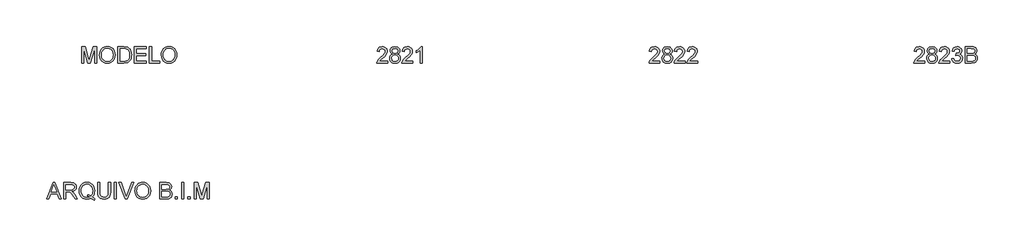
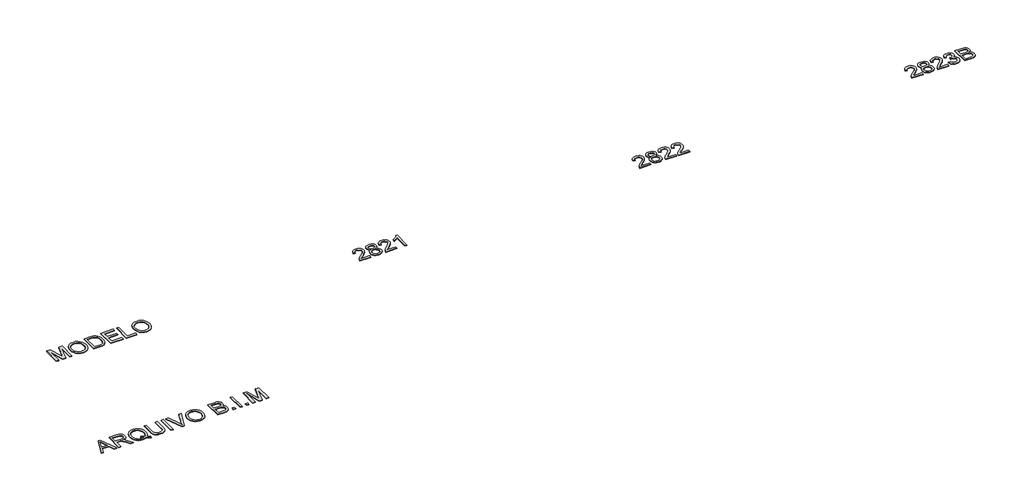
# One storey, part 3 of 4: 5 proxies.
"""IFC4 building model written with IfcOpenShell, lengths in millimetres."""

from ifc_helpers import new_model, si_unit, origin, origin_with_axes, place, context, project, spatial, polyline, outline, extrude, element, save

model = new_model("IFC4")

# Units and contexts
model_context = context("Model", 3, world=origin())
ifc_project = project(units=[si_unit("LENGTHUNIT", "METRE", prefix="MILLI")], contexts=[model_context])

# Site, building, storey
site = spatial("IfcSite", under=ifc_project)
building = spatial("IfcBuilding", under=site)
storey = spatial("IfcBuildingStorey", under=building, Name="Marelli - Linha UNIQUE - Planta Baixa", Elevation=0.0)

# Proxies
placement = place(None, origin())
element("IfcBuildingElementProxy", 1, Name="300mm Arial", ObjectType="300mm Arial", at=placement, inside=storey, context=model_context, shape_type="SweptSolid", body=[
    extrude(outline(polyline([(-8109.419598, 3219.4336799), (-7989.1221856, 3520.8026104), (-7957.0428756, 3520.8026104), (-7836.7454632, 3219.4336799), (-7876.550295, 3219.4336799), (-7911.0576262, 3313.6114707), (-8035.1810114, 3313.6114707), (-8069.6147661, 3219.4336799), (-8109.419598, 3219.4336799)]), holes=[polyline([(-8021.3486483, 3351.282587), (-7924.8164128, 3351.282587), (-7951.9661041, 3425.3740208), (-7973.0825306, 3483.1314941), (-7991.8445123, 3431.8487439), (-8021.3486483, 3351.282587)])]), origin_with_axes(), (0.0, 0.0, 1.0), 10.0),
    extrude(outline(polyline([(-7796.4991729, 3219.4336799), (-7796.4991729, 3520.8026104), (-7666.6368286, 3520.8026104), (-7631.7340243, 3518.7700624), (-7606.3409696, 3512.6724183), (-7587.7813229, 3501.4152292), (-7573.3787428, 3483.9040463), (-7564.1357077, 3462.1898115), (-7561.054696, 3438.3234671), (-7566.1590587, 3408.6353901), (-7581.4721467, 3384.0240846), (-7593.0719259, 3373.9947017), (-7607.4538126, 3365.9794727), (-7644.5639089, 3355.9914765), (-7623.1531768, 3339.8782452), (-7592.6189712, 3301.1034829), (-7542.3662906, 3219.4336799), (-7586.144248, 3219.4336799), (-7625.3604687, 3281.9000427), (-7653.6873824, 3323.249979), (-7673.5897983, 3342.7845129), (-7691.5056515, 3349.9582118), (-7713.357842, 3351.282587), (-7758.8280566, 3351.282587), (-7758.8280566, 3219.4336799), (-7796.4991729, 3219.4336799)]), holes=[polyline([(-7758.8280566, 3388.9537033), (-7674.5095033, 3388.9537033), (-7650.293671, 3390.2872755), (-7631.5040981, 3394.2879922), (-7617.3590353, 3401.2225678), (-7607.0767336, 3411.3577168), (-7600.8135426, 3423.6173843), (-7598.7258123, 3436.9255155), (-7602.7081349, 3455.3012211), (-7614.6551027, 3470.1084714), (-7635.2105092, 3479.8757384), (-7665.0181478, 3483.1314941), (-7758.8280566, 3483.1314941), (-7758.8280566, 3388.9537033)])]), origin_with_axes(), (0.0, 0.0, 1.0), 10.0),
    extrude(outline(polyline([(-7268.7356626, 3255.5596919), (-7244.4002686, 3236.963257), (-7222.0146492, 3224.1425695), (-7232.1681923, 3196.5514198), (-7263.2358268, 3210.9539999), (-7294.1930967, 3231.794515), (-7329.0499157, 3218.9922215), (-7367.4016137, 3214.7247904), (-7405.9372527, 3219.6452121), (-7440.7572836, 3234.4064771), (-7469.9211287, 3258.0796835), (-7491.4882107, 3289.7359292), (-7504.814736, 3327.6369718), (-7509.2569111, 3370.0445688), (-7504.823933, 3412.488954), (-7491.5249989, 3450.9418195), (-7470.0406904, 3483.0487206), (-7441.0515892, 3506.4552126), (-7406.360317, 3520.7474281), (-7367.7694957, 3525.5114999), (-7328.8751718, 3520.6370635), (-7294.0091557, 3506.0137542), (-7265.0660397, 3482.6164593), (-7243.9404161, 3451.4200661), (-7231.0277581, 3414.0800436), (-7226.7235388, 3372.2518607), (-7229.3355009, 3337.4686181), (-7237.1713874, 3306.4009836), (-7250.2863806, 3279.0857454), (-7268.7356626, 3255.5596919)]), holes=[polyline([(-7357.0273415, 3305.6652196), (-7325.3527017, 3293.6906607), (-7299.784903, 3277.0440004), (-7284.3016695, 3294.5183951), (-7273.2422171, 3315.8923391), (-7266.6065456, 3341.1658321), (-7264.3946551, 3370.3388744), (-7267.521652, 3403.4942392), (-7276.9026429, 3432.1798377), (-7292.3077015, 3455.6691031), (-7313.5069014, 3473.2354684), (-7339.065503, 3484.1891548), (-7367.5487665, 3487.8403836), (-7389.033075, 3485.9940758), (-7408.6043972, 3480.4551526), (-7426.2627329, 3471.2236137), (-7442.0080823, 3458.2994594), (-7454.9483315, 3441.7102807), (-7464.1913666, 3421.4836687), (-7469.7371877, 3397.6196236), (-7471.5857948, 3370.1181452), (-7469.7578811, 3343.3340366), (-7464.2741401, 3319.8562676), (-7455.1345718, 3299.6848379), (-7442.3391761, 3282.8197477), (-7426.7018921, 3269.5093173), (-7409.0366585, 3260.0018669), (-7389.3434755, 3254.2973968), (-7367.6223429, 3252.3959067), (-7346.7082515, 3254.3272872), (-7327.081747, 3260.1214286), (-7346.3771577, 3270.146213), (-7366.7394261, 3276.8232712), (-7357.0273415, 3305.6652196)])]), origin_with_axes(), (0.0, 0.0, 1.0), 10.0),
    extrude(outline(polyline([(-6972.4435037, 3520.8026104), (-6934.7723874, 3520.8026104), (-6934.7723874, 3346.9415795), (-6937.3291673, 3306.2262396), (-6944.9995069, 3274.8734966), (-6959.3285106, 3250.6852554), (-6981.8612828, 3231.4634212), (-7012.6530058, 3218.9094481), (-7051.7588619, 3214.7247904), (-7090.0093923, 3218.3668221), (-7120.5895832, 3229.2929174), (-7143.5086315, 3247.1259971), (-7158.7757343, 3271.4889822), (-7167.3565818, 3304.1661005), (-7170.2168643, 3346.9415795), (-7170.2168643, 3520.8026104), (-7132.545748, 3520.8026104), (-7132.545748, 3348.2659546), (-7130.6879439, 3314.411614), (-7125.1145317, 3290.8395752), (-7115.0161709, 3274.5148117), (-7099.5835212, 3262.402297), (-7079.4603761, 3254.8975043), (-7055.290529, 3252.3959067), (-7016.9756192, 3257.3439195), (-7002.6328199, 3263.5289356), (-6991.499791, 3272.187958), (-6983.1626653, 3284.3648521), (-6977.2075755, 3301.1034829), (-6972.4435037, 3348.2659546), (-6972.4435037, 3520.8026104)])), origin_with_axes(), (0.0, 0.0, 1.0), 10.0),
    extrude(outline(polyline([(-6864.1390443, 3219.4336799), (-6864.1390443, 3520.8026104), (-6826.467928, 3520.8026104), (-6826.467928, 3219.4336799), (-6864.1390443, 3219.4336799)])), origin_with_axes(), (0.0, 0.0, 1.0), 10.0),
    extrude(outline(polyline([(-6662.0982526, 3219.4336799), (-6782.027783, 3520.8026104), (-6741.7079163, 3520.8026104), (-6661.436065, 3303.6786568), (-6645.1756808, 3254.7503515), (-6629.1360258, 3303.6786568), (-6548.6434453, 3520.8026104), (-6508.3235786, 3520.8026104), (-6623.1763375, 3219.4336799), (-6662.0982526, 3219.4336799)])), origin_with_axes(), (0.0, 0.0, 1.0), 10.0),
    extrude(outline(polyline([(-6487.4278813, 3366.1450196), (-6484.9170866, 3401.4938808), (-6477.3847028, 3432.786843), (-6464.8307297, 3460.0239063), (-6447.2551674, 3483.2050705), (-6425.711078, 3501.7141334), (-6401.2515239, 3514.9348926), (-6373.8765049, 3522.8673481), (-6343.5860211, 3525.5114999), (-6304.0571008, 3520.545093), (-6268.6116705, 3505.6458722), (-6239.1811109, 3481.8623012), (-6217.6968024, 3450.2428437), (-6204.5634152, 3412.31421), (-6200.1856194, 3369.6031104), (-6204.7933414, 3326.3217936), (-6218.6165074, 3287.859731), (-6240.8917622, 3256.1850913), (-6270.8557507, 3233.266043), (-6305.9976783, 3219.3601035), (-6343.8067503, 3214.7247904), (-6383.942676, 3219.8475472), (-6419.5904413, 3235.2158175), (-6448.9474246, 3259.4408469), (-6470.2110039, 3291.1338808), (-6483.1236619, 3327.6001836), (-6487.4278813, 3366.1450196)]), holes=[polyline([(-6449.7567649, 3365.7771376), (-6447.873669, 3340.8025487), (-6442.2243811, 3318.6330599), (-6432.8089013, 3299.2686714), (-6419.6272295, 3282.7093831), (-6403.6036694, 3269.4472372), (-6385.6625243, 3259.9742758), (-6365.8037944, 3254.290499), (-6344.0274795, 3252.3959067), (-6321.8786842, 3254.3088931), (-6301.7854294, 3260.0478522), (-6283.7477154, 3269.6127841), (-6267.7655419, 3283.0036887), (-6254.6804392, 3299.9124649), (-6245.3339373, 3320.0310115), (-6239.7260361, 3343.3593285), (-6237.8567357, 3369.897416), (-6241.0573091, 3403.2459188), (-6250.6590292, 3432.0694731), (-6266.4135756, 3455.641512), (-6288.0726281, 3473.2354684), (-6314.2014468, 3484.1891548), (-6343.3652919, 3487.8403836), (-6364.3851494, 3486.0814478), (-6383.8874937, 3480.8046405), (-6401.8723248, 3472.0099615), (-6418.3396426, 3459.697411), (-6432.0846336, 3443.2737792), (-6441.9024844, 3422.1458563), (-6447.7931948, 3396.3136425), (-6449.7567649, 3365.7771376)])]), origin_with_axes(), (0.0, 0.0, 1.0), 10.0),
    extrude(outline(polyline([(-6030.665596, 3219.4336799), (-6030.665596, 3520.8026104), (-5915.6656844, 3520.8026104), (-5884.0370298, 3518.5861214), (-5859.3429509, 3511.9366543), (-5840.4154222, 3500.6886623), (-5826.0864185, 3484.6765985), (-5817.0641126, 3465.8410403), (-5814.0566773, 3446.1225654), (-5816.585866, 3427.9767859), (-5824.1734321, 3410.9162584), (-5836.874558, 3395.9894465), (-5854.7444259, 3384.2448138), (-5833.3980732, 3373.0979893), (-5817.6251326, 3356.1386293), (-5807.8854568, 3334.4887739), (-5804.6388982, 3309.2704632), (-5806.8553872, 3288.2552042), (-5813.5048543, 3268.7666555), (-5823.4284711, 3252.1935716), (-5835.4674094, 3239.9247071), (-5850.2102804, 3231.0403569), (-5868.2456952, 3224.6208161), (-5916.5486011, 3219.4336799), (-6030.665596, 3219.4336799)]), holes=[polyline([(-5992.9944797, 3398.3714824), (-5924.2005466, 3398.3714824), (-5884.0278328, 3401.6088439), (-5869.9655435, 3407.1914532), (-5859.8579857, 3415.5515716), (-5853.7603416, 3426.5604403), (-5851.7277936, 3440.0893006), (-5853.6223859, 3453.2226879), (-5859.3061627, 3464.6638179), (-5868.5216067, 3473.5941533), (-5881.0112004, 3479.1951567), (-5929.424471, 3483.1314941), (-5992.9944797, 3483.1314941), (-5992.9944797, 3398.3714824)]), polyline([(-5992.9944797, 3257.1047962), (-5915.7392607, 3257.1047962), (-5887.7802291, 3258.5763242), (-5864.1254168, 3266.7800927), (-5848.4536438, 3283.5187235), (-5843.8459218, 3295.3461296), (-5842.3100145, 3308.9025812), (-5844.1126363, 3324.6479306), (-5849.5205016, 3338.185988), (-5858.9658718, 3348.7717924), (-5872.8810083, 3355.6603827), (-5892.5902862, 3359.4403702), (-5919.4180807, 3360.7003661), (-5992.9944797, 3360.7003661), (-5992.9944797, 3257.1047962)])]), origin_with_axes(), (0.0, 0.0, 1.0), 10.0),
    extrude(outline(polyline([(-5748.1322237, 3219.4336799), (-5748.1322237, 3257.1047962), (-5710.4611074, 3257.1047962), (-5710.4611074, 3219.4336799), (-5748.1322237, 3219.4336799)])), origin_with_axes(), (0.0, 0.0, 1.0), 10.0),
    extrude(outline(polyline([(-5630.4099853, 3219.4336799), (-5630.4099853, 3520.8026104), (-5592.738869, 3520.8026104), (-5592.738869, 3219.4336799), (-5630.4099853, 3219.4336799)])), origin_with_axes(), (0.0, 0.0, 1.0), 10.0),
    extrude(outline(polyline([(-5512.6877468, 3219.4336799), (-5512.6877468, 3257.1047962), (-5475.0166305, 3257.1047962), (-5475.0166305, 3219.4336799), (-5512.6877468, 3219.4336799)])), origin_with_axes(), (0.0, 0.0, 1.0), 10.0),
    extrude(outline(polyline([(-5399.6743979, 3219.4336799), (-5399.6743979, 3520.8026104), (-5334.8535904, 3520.8026104), (-5273.196568, 3308.3875464), (-5260.7621565, 3264.0209777), (-5247.2976755, 3312.0663663), (-5186.6707227, 3520.8026104), (-5121.8499152, 3520.8026104), (-5121.8499152, 3219.4336799), (-5159.5210315, 3219.4336799), (-5159.5210315, 3483.1314941), (-5235.2311461, 3219.4336799), (-5286.293167, 3219.4336799), (-5362.0032816, 3483.1314941), (-5362.0032816, 3219.4336799), (-5399.6743979, 3219.4336799)])), origin_with_axes(), (0.0, 0.0, 1.0), 10.0),
])
element("IfcBuildingElementProxy", 2, Name="300mm Arial", ObjectType="300mm Arial", at=placement, inside=storey, context=model_context, shape_type="SweptSolid", body=[
    extrude(outline(polyline([(-7466.8769052, 5719.4336799), (-7466.8769052, 6020.8026104), (-7402.0560977, 6020.8026104), (-7340.3990753, 5808.3875464), (-7327.9646638, 5764.0209777), (-7314.5001828, 5812.0663663), (-7253.87323, 6020.8026104), (-7189.0524225, 6020.8026104), (-7189.0524225, 5719.4336799), (-7226.7235388, 5719.4336799), (-7226.7235388, 5983.1314941), (-7302.4336534, 5719.4336799), (-7353.4956743, 5719.4336799), (-7429.2057889, 5983.1314941), (-7429.2057889, 5719.4336799), (-7466.8769052, 5719.4336799)])), origin_with_axes(), (0.0, 0.0, 1.0), 10.0),
    extrude(outline(polyline([(-7137.2546375, 5866.1450196), (-7134.7438429, 5901.4938808), (-7127.2114591, 5932.786843), (-7114.657486, 5960.0239063), (-7097.0819237, 5983.2050705), (-7075.5378343, 6001.7141334), (-7051.0782802, 6014.9348926), (-7023.7032612, 6022.8673481), (-6993.4127774, 6025.5114999), (-6953.883857, 6020.545093), (-6918.4384268, 6005.6458722), (-6889.0078672, 5981.8623012), (-6867.5235587, 5950.2428437), (-6854.3901714, 5912.31421), (-6850.0123757, 5869.6031104), (-6854.6200977, 5826.3217936), (-6868.4432637, 5787.859731), (-6890.7185185, 5756.1850913), (-6920.682507, 5733.266043), (-6955.8244346, 5719.3601035), (-6993.6335066, 5714.7247904), (-7033.7694323, 5719.8475472), (-7069.4171976, 5735.2158175), (-7098.7741808, 5759.4408469), (-7120.0377602, 5791.1338808), (-7132.9504182, 5827.6001836), (-7137.2546375, 5866.1450196)]), holes=[polyline([(-7099.5835212, 5865.7771376), (-7097.7004253, 5840.8025487), (-7092.0511374, 5818.6330599), (-7082.6356576, 5799.2686714), (-7069.4539858, 5782.7093831), (-7053.4304257, 5769.4472372), (-7035.4892806, 5759.9742758), (-7015.6305507, 5754.290499), (-6993.8542358, 5752.3959067), (-6971.7054404, 5754.3088931), (-6951.6121857, 5760.0478522), (-6933.5744716, 5769.6127841), (-6917.5922982, 5783.0036887), (-6904.5071955, 5799.9124649), (-6895.1606936, 5820.0310115), (-6889.5527924, 5843.3593285), (-6887.683492, 5869.897416), (-6890.8840654, 5903.2459188), (-6900.4857854, 5932.0694731), (-6916.2403319, 5955.641512), (-6937.8993843, 5973.2354684), (-6964.0282031, 5984.1891548), (-6993.1920482, 5987.8403836), (-7014.2119057, 5986.0814478), (-7033.71425, 5980.8046405), (-7051.699081, 5972.0099615), (-7068.1663988, 5959.697411), (-7081.9113899, 5943.2737792), (-7091.7292406, 5922.1458563), (-7097.6199511, 5896.3136425), (-7099.5835212, 5865.7771376)])]), origin_with_axes(), (0.0, 0.0, 1.0), 10.0),
    extrude(outline(polyline([(-6798.2145908, 5719.4336799), (-6798.2145908, 6020.8026104), (-6694.2511389, 6020.8026104), (-6640.4667912, 6016.4616028), (-6616.444097, 6008.0922874), (-6596.173799, 5994.9037179), (-6575.333284, 5971.9478814), (-6560.4892455, 5943.4002386), (-6551.6048953, 5909.8126124), (-6548.6434453, 5871.7368259), (-6550.6484021, 5839.3908015), (-6556.6632727, 5810.9259321), (-6565.8235344, 5786.6917057), (-6577.2646645, 5767.0376101), (-6590.4348399, 5751.522187), (-6604.7822377, 5739.7039779), (-6621.254154, 5730.9391893), (-6640.797885, 5724.5840279), (-6689.2479438, 5719.4336799), (-6798.2145908, 5719.4336799)]), holes=[polyline([(-6760.5434745, 5757.1047962), (-6693.8832569, 5757.1047962), (-6666.3105014, 5758.4659596), (-6645.39641, 5762.5494498), (-6629.6142724, 5769.1161434), (-6617.4373783, 5777.9269172), (-6604.3499764, 5794.2332866), (-6594.5183301, 5815.3405161), (-6588.3655037, 5841.3405761), (-6586.3145616, 5872.3254371), (-6590.3336724, 5913.3810678), (-6602.3910047, 5943.6945442), (-6620.2056904, 5964.5166651), (-6641.4968608, 5977.0982294), (-6663.1651104, 5981.6231779), (-6694.9133265, 5983.1314941), (-6760.5434745, 5983.1314941), (-6760.5434745, 5757.1047962)])]), origin_with_axes(), (0.0, 0.0, 1.0), 10.0),
    extrude(outline(polyline([(-6496.8456603, 5719.4336799), (-6496.8456603, 6020.8026104), (-6280.2367416, 6020.8026104), (-6280.2367416, 5983.1314941), (-6459.174544, 5983.1314941), (-6459.174544, 5893.6625928), (-6289.6545206, 5893.6625928), (-6289.6545206, 5855.9914765), (-6459.174544, 5855.9914765), (-6459.174544, 5757.1047962), (-6275.527852, 5757.1047962), (-6275.527852, 5719.4336799), (-6496.8456603, 5719.4336799)])), origin_with_axes(), (0.0, 0.0, 1.0), 10.0),
    extrude(outline(polyline([(-6219.0211776, 5719.4336799), (-6219.0211776, 6020.8026104), (-6181.3500613, 6020.8026104), (-6181.3500613, 5757.1047962), (-6030.665596, 5757.1047962), (-6030.665596, 5719.4336799), (-6219.0211776, 5719.4336799)])), origin_with_axes(), (0.0, 0.0, 1.0), 10.0),
    extrude(outline(polyline([(-6002.4122588, 5866.1450196), (-5999.9014642, 5901.4938808), (-5992.3690803, 5932.786843), (-5979.8151073, 5960.0239063), (-5962.2395449, 5983.2050705), (-5940.6954556, 6001.7141334), (-5916.2359014, 6014.9348926), (-5888.8608825, 6022.8673481), (-5858.5703987, 6025.5114999), (-5819.0414783, 6020.545093), (-5783.5960481, 6005.6458722), (-5754.1654885, 5981.8623012), (-5732.6811799, 5950.2428437), (-5719.5477927, 5912.31421), (-5715.169997, 5869.6031104), (-5719.777719, 5826.3217936), (-5733.6008849, 5787.859731), (-5755.8761397, 5756.1850913), (-5785.8401283, 5733.266043), (-5820.9820558, 5719.3601035), (-5858.7911279, 5714.7247904), (-5898.9270536, 5719.8475472), (-5934.5748189, 5735.2158175), (-5963.9318021, 5759.4408469), (-5985.1953814, 5791.1338808), (-5998.1080395, 5827.6001836), (-6002.4122588, 5866.1450196)]), holes=[polyline([(-5964.7411425, 5865.7771376), (-5962.8580465, 5840.8025487), (-5957.2087587, 5818.6330599), (-5947.7932788, 5799.2686714), (-5934.6116071, 5782.7093831), (-5918.5880469, 5769.4472372), (-5900.6469019, 5759.9742758), (-5880.7881719, 5754.290499), (-5859.0118571, 5752.3959067), (-5836.8630617, 5754.3088931), (-5816.769807, 5760.0478522), (-5798.7320929, 5769.6127841), (-5782.7499195, 5783.0036887), (-5769.6648168, 5799.9124649), (-5760.3183148, 5820.0310115), (-5754.7104137, 5843.3593285), (-5752.8411133, 5869.897416), (-5756.0416866, 5903.2459188), (-5765.6434067, 5932.0694731), (-5781.3979532, 5955.641512), (-5803.0570056, 5973.2354684), (-5829.1858243, 5984.1891548), (-5858.3496695, 5987.8403836), (-5879.369527, 5986.0814478), (-5898.8718713, 5980.8046405), (-5916.8567023, 5972.0099615), (-5933.3240201, 5959.697411), (-5947.0690112, 5943.2737792), (-5956.8868619, 5922.1458563), (-5962.7775724, 5896.3136425), (-5964.7411425, 5865.7771376)])]), origin_with_axes(), (0.0, 0.0, 1.0), 10.0),
])
element("IfcBuildingElementProxy", 3, Name="300mm Arial", ObjectType="300mm Arial", at=placement, inside=storey, context=model_context, shape_type="SweptSolid", body=[
    extrude(outline(polyline([(-1847.6579309, 5757.1047962), (-1847.6579309, 5719.4336799), (-2045.4312915, 5719.4336799), (-2041.3845896, 5745.4061488), (-2032.0955692, 5765.7040379), (-2018.5023295, 5785.3949217), (-1998.8390368, 5806.0055104), (-1971.3398577, 5829.0625145), (-1930.6888972, 5865.1701323), (-1906.298321, 5891.8231829), (-1894.1030328, 5913.4546442), (-1890.0379368, 5934.4974943), (-1893.8731066, 5953.3606436), (-1905.378616, 5969.0416137), (-1923.0645429, 5979.609024), (-1945.4409652, 5983.1314941), (-1968.9394277, 5979.6917974), (-1987.1955717, 5969.3727075), (-1998.9769926, 5952.9835646), (-2003.0512857, 5931.3337092), (-2040.722402, 5936.0425987), (-2031.5897315, 5972.4813103), (-2023.0433729, 5987.0172476), (-2011.8436654, 5999.0975727), (-1998.2481264, 6008.5935267), (-1982.5142733, 6015.376351), (-1944.6316249, 6020.8026104), (-1924.4418011, 6019.2942942), (-1906.4730649, 6014.7693457), (-1890.7254163, 6007.2277648), (-1877.1988551, 5996.6695515), (-1866.33484, 5983.8764551), (-1858.5748291, 5969.6302249), (-1853.9188226, 5953.9308607), (-1852.3668205, 5936.7783627), (-1854.0406835, 5918.761342), (-1859.0622728, 5901.057021), (-1867.9742141, 5883.0491973), (-1881.3191335, 5864.1216686), (-1902.5919099, 5841.5245171), (-1935.2874222, 5812.5078247), (-1978.6239212, 5776.2714482), (-1995.6200694, 5757.1047962), (-1847.6579309, 5757.1047962)])), origin_with_axes(), (0.0, 0.0, 1.0), 10.0),
    extrude(outline(polyline([(-1755.0988209, 5885.4220362), (-1775.2679513, 5895.35485), (-1789.4222111, 5908.819331), (-1797.7823294, 5925.5395677), (-1800.5690355, 5945.2396486), (-1799.0515223, 5960.6033204), (-1794.4989826, 5974.6886023), (-1786.9114165, 5987.4954942), (-1776.2888239, 5999.0239963), (-1763.1416411, 6008.5521399), (-1747.9803043, 6015.3579569), (-1711.6151691, 6020.8026104), (-1675.0293047, 6015.2291982), (-1659.7024211, 6008.2624329), (-1646.3529032, 5998.5089615), (-1635.5371725, 5986.7551317), (-1627.8116506, 5973.7872914), (-1623.1763375, 5959.6054405), (-1621.6312331, 5944.209579), (-1624.381151, 5925.1440946), (-1632.6309048, 5908.7089665), (-1646.4724648, 5895.3272589), (-1665.9978017, 5885.4220362), (-1642.812039, 5873.4750684), (-1625.9354524, 5855.8811119), (-1615.6439536, 5833.4862955), (-1612.213454, 5807.1367476), (-1613.9149082, 5788.3471747), (-1619.0192709, 5771.1211003), (-1627.5265421, 5755.4585243), (-1639.4367217, 5741.3594468), (-1654.1244103, 5729.7067846), (-1670.9642086, 5721.3834545), (-1689.9561166, 5716.3894564), (-1711.1001343, 5714.7247904), (-1732.244152, 5716.3963542), (-1751.23606, 5721.4110457), (-1768.0758583, 5729.7688647), (-1782.763547, 5741.4698114), (-1794.6737266, 5755.6677572), (-1803.1809977, 5771.5165734), (-1808.2853604, 5789.0162601), (-1809.9868146, 5808.1668172), (-1806.4183593, 5835.5372376), (-1795.7129932, 5858.0516157), (-1778.4225394, 5874.9373993), (-1755.0988209, 5885.4220362)]), holes=[polyline([(-1762.8979192, 5944.1360026), (-1759.5593901, 5927.6916774), (-1749.5438028, 5914.5582902), (-1733.1454629, 5905.9498515), (-1710.6586759, 5903.0803719), (-1688.6961208, 5905.9314574), (-1672.5461012, 5914.4847138), (-1662.6132874, 5927.1766426), (-1659.3023494, 5942.4437454), (-1662.723652, 5958.2902624), (-1672.9875596, 5971.3960584), (-1689.3583084, 5980.1976352), (-1711.1001343, 5983.1314941), (-1732.979916, 5980.2620145), (-1749.3230736, 5971.6535758), (-1759.5042078, 5959.0352234), (-1762.8979192, 5944.1360026)]), polyline([(-1772.3156983, 5809.4911924), (-1766.0249162, 5781.1274905), (-1757.31531, 5768.9597935), (-1743.7680555, 5759.9006994), (-1727.5444595, 5754.2721049), (-1710.8058287, 5752.3959067), (-1685.1644537, 5756.3414411), (-1665.9242253, 5768.1780443), (-1653.8944841, 5786.1030945), (-1649.8845703, 5808.31397), (-1654.0232428, 5830.9019245), (-1666.4392601, 5849.2224478), (-1686.1209468, 5861.3625537), (-1712.0566275, 5865.4092556), (-1737.3393176, 5861.417736), (-1756.3864079, 5849.443177), (-1768.3333757, 5831.4721416), (-1772.3156983, 5809.4911924)])]), origin_with_axes(), (0.0, 0.0, 1.0), 10.0),
    extrude(outline(polyline([(-1386.1867562, 5757.1047962), (-1386.1867562, 5719.4336799), (-1583.9601168, 5719.4336799), (-1579.9134148, 5745.4061488), (-1570.6243945, 5765.7040379), (-1557.0311547, 5785.3949217), (-1537.3678621, 5806.0055104), (-1509.868683, 5829.0625145), (-1469.2177225, 5865.1701323), (-1444.8271462, 5891.8231829), (-1432.6318581, 5913.4546442), (-1428.566762, 5934.4974943), (-1432.4019318, 5953.3606436), (-1443.9074412, 5969.0416137), (-1461.5933681, 5979.609024), (-1483.9697905, 5983.1314941), (-1507.4682529, 5979.6917974), (-1525.724397, 5969.3727075), (-1537.5058178, 5952.9835646), (-1541.5801109, 5931.3337092), (-1579.2512272, 5936.0425987), (-1570.1185567, 5972.4813103), (-1561.5721981, 5987.0172476), (-1550.3724906, 5999.0975727), (-1536.7769516, 6008.5935267), (-1521.0430986, 6015.376351), (-1483.1604501, 6020.8026104), (-1462.9706264, 6019.2942942), (-1445.0018902, 6014.7693457), (-1429.2542415, 6007.2277648), (-1415.7276804, 5996.6695515), (-1404.8636652, 5983.8764551), (-1397.1036544, 5969.6302249), (-1392.4476479, 5953.9308607), (-1390.8956457, 5936.7783627), (-1392.5695088, 5918.761342), (-1397.591098, 5901.057021), (-1406.5030394, 5883.0491973), (-1419.8479587, 5864.1216686), (-1441.1207351, 5841.5245171), (-1473.8162474, 5812.5078247), (-1517.1527465, 5776.2714482), (-1534.1488946, 5757.1047962), (-1386.1867562, 5757.1047962)])), origin_with_axes(), (0.0, 0.0, 1.0), 10.0),
    extrude(outline(polyline([(-1207.2489537, 5719.4336799), (-1244.92007, 5719.4336799), (-1244.92007, 5954.2895457), (-1280.6046236, 5928.8688998), (-1320.2623026, 5909.8494006), (-1320.2623026, 5945.4603778), (-1290.6753932, 5961.5552151), (-1265.0432152, 5980.7034729), (-1244.8372966, 6001.0657413), (-1231.5291654, 6020.8026104), (-1207.2489537, 6020.8026104), (-1207.2489537, 5719.4336799)])), origin_with_axes(), (0.0, 0.0, 1.0), 10.0),
])
element("IfcBuildingElementProxy", 4, Name="300mm Arial", ObjectType="300mm Arial", at=placement, inside=storey, context=model_context, shape_type="SweptSolid", body=[
    extrude(outline(polyline([(3152.3420691, 5757.1047962), (3152.3420691, 5719.4336799), (2954.5687085, 5719.4336799), (2958.6154104, 5745.4061488), (2967.9044308, 5765.7040379), (2981.4976705, 5785.3949217), (3001.1609632, 5806.0055104), (3028.6601423, 5829.0625145), (3069.3111028, 5865.1701323), (3093.701679, 5891.8231829), (3105.8969672, 5913.4546442), (3109.9620632, 5934.4974943), (3106.1268934, 5953.3606436), (3094.621384, 5969.0416137), (3076.9354571, 5979.609024), (3054.5590348, 5983.1314941), (3031.0605723, 5979.6917974), (3012.8044283, 5969.3727075), (3001.0230074, 5952.9835646), (2996.9487143, 5931.3337092), (2959.277598, 5936.0425987), (2968.4102685, 5972.4813103), (2976.9566271, 5987.0172476), (2988.1563346, 5999.0975727), (3001.7518736, 6008.5935267), (3017.4857267, 6015.376351), (3055.3683751, 6020.8026104), (3075.5581989, 6019.2942942), (3093.5269351, 6014.7693457), (3109.2745837, 6007.2277648), (3122.8011449, 5996.6695515), (3133.66516, 5983.8764551), (3141.4251709, 5969.6302249), (3146.0811774, 5953.9308607), (3147.6331795, 5936.7783627), (3145.9593165, 5918.761342), (3140.9377272, 5901.057021), (3132.0257859, 5883.0491973), (3118.6808665, 5864.1216686), (3097.4080901, 5841.5245171), (3064.7125778, 5812.5078247), (3021.3760788, 5776.2714482), (3004.3799306, 5757.1047962), (3152.3420691, 5757.1047962)])), origin_with_axes(), (0.0, 0.0, 1.0), 10.0),
    extrude(outline(polyline([(3244.9011791, 5885.4220362), (3224.7320487, 5895.35485), (3210.5777889, 5908.819331), (3202.2176706, 5925.5395677), (3199.4309645, 5945.2396486), (3200.9484777, 5960.6033204), (3205.5010174, 5974.6886023), (3213.0885835, 5987.4954942), (3223.7111761, 5999.0239963), (3236.8583589, 6008.5521399), (3252.0196957, 6015.3579569), (3288.3848309, 6020.8026104), (3324.9706953, 6015.2291982), (3340.2975789, 6008.2624329), (3353.6470968, 5998.5089615), (3364.4628275, 5986.7551317), (3372.1883494, 5973.7872914), (3376.8236625, 5959.6054405), (3378.3687669, 5944.209579), (3375.618849, 5925.1440946), (3367.3690952, 5908.7089665), (3353.5275352, 5895.3272589), (3334.0021983, 5885.4220362), (3357.187961, 5873.4750684), (3374.0645476, 5855.8811119), (3384.3560464, 5833.4862955), (3387.786546, 5807.1367476), (3386.0850918, 5788.3471747), (3380.9807291, 5771.1211003), (3372.4734579, 5755.4585243), (3360.5632783, 5741.3594468), (3345.8755897, 5729.7067846), (3329.0357914, 5721.3834545), (3310.0438834, 5716.3894564), (3288.8998657, 5714.7247904), (3267.755848, 5716.3963542), (3248.76394, 5721.4110457), (3231.9241417, 5729.7688647), (3217.236453, 5741.4698114), (3205.3262734, 5755.6677572), (3196.8190023, 5771.5165734), (3191.7146396, 5789.0162601), (3190.0131854, 5808.1668172), (3193.5816407, 5835.5372376), (3204.2870068, 5858.0516157), (3221.5774606, 5874.9373993), (3244.9011791, 5885.4220362)]), holes=[polyline([(3237.1020808, 5944.1360026), (3240.4406099, 5927.6916774), (3250.4561972, 5914.5582902), (3266.8545371, 5905.9498515), (3289.3413241, 5903.0803719), (3311.3038792, 5905.9314574), (3327.4538988, 5914.4847138), (3337.3867126, 5927.1766426), (3340.6976506, 5942.4437454), (3337.276348, 5958.2902624), (3327.0124404, 5971.3960584), (3310.6416916, 5980.1976352), (3288.8998657, 5983.1314941), (3267.020084, 5980.2620145), (3250.6769264, 5971.6535758), (3240.4957922, 5959.0352234), (3237.1020808, 5944.1360026)]), polyline([(3227.6843017, 5809.4911924), (3233.9750838, 5781.1274905), (3242.68469, 5768.9597935), (3256.2319445, 5759.9006994), (3272.4555405, 5754.2721049), (3289.1941713, 5752.3959067), (3314.8355463, 5756.3414411), (3334.0757747, 5768.1780443), (3346.1055159, 5786.1030945), (3350.1154297, 5808.31397), (3345.9767572, 5830.9019245), (3333.5607399, 5849.2224478), (3313.8790532, 5861.3625537), (3287.9433725, 5865.4092556), (3262.6606824, 5861.417736), (3243.6135921, 5849.443177), (3231.6666243, 5831.4721416), (3227.6843017, 5809.4911924)])]), origin_with_axes(), (0.0, 0.0, 1.0), 10.0),
    extrude(outline(polyline([(3613.8132438, 5757.1047962), (3613.8132438, 5719.4336799), (3416.0398832, 5719.4336799), (3420.0865852, 5745.4061488), (3429.3756055, 5765.7040379), (3442.9688453, 5785.3949217), (3462.6321379, 5806.0055104), (3490.131317, 5829.0625145), (3530.7822775, 5865.1701323), (3555.1728538, 5891.8231829), (3567.3681419, 5913.4546442), (3571.433238, 5934.4974943), (3567.5980682, 5953.3606436), (3556.0925588, 5969.0416137), (3538.4066319, 5979.609024), (3516.0302095, 5983.1314941), (3492.5317471, 5979.6917974), (3474.275603, 5969.3727075), (3462.4941822, 5952.9835646), (3458.4198891, 5931.3337092), (3420.7487728, 5936.0425987), (3429.8814433, 5972.4813103), (3438.4278019, 5987.0172476), (3449.6275094, 5999.0975727), (3463.2230484, 6008.5935267), (3478.9569014, 6015.376351), (3516.8395499, 6020.8026104), (3537.0293736, 6019.2942942), (3554.9981098, 6014.7693457), (3570.7457585, 6007.2277648), (3584.2723196, 5996.6695515), (3595.1363348, 5983.8764551), (3602.8963456, 5969.6302249), (3607.5523521, 5953.9308607), (3609.1043543, 5936.7783627), (3607.4304912, 5918.761342), (3602.408902, 5901.057021), (3593.4969606, 5883.0491973), (3580.1520413, 5864.1216686), (3558.8792649, 5841.5245171), (3526.1837526, 5812.5078247), (3482.8472535, 5776.2714482), (3465.8511054, 5757.1047962), (3613.8132438, 5757.1047962)])), origin_with_axes(), (0.0, 0.0, 1.0), 10.0),
    extrude(outline(polyline([(3844.5488312, 5757.1047962), (3844.5488312, 5719.4336799), (3646.7754706, 5719.4336799), (3650.8221725, 5745.4061488), (3660.1111929, 5765.7040379), (3673.7044326, 5785.3949217), (3693.3677253, 5806.0055104), (3720.8669044, 5829.0625145), (3761.5178649, 5865.1701323), (3785.9084412, 5891.8231829), (3798.1037293, 5913.4546442), (3802.1688253, 5934.4974943), (3798.3336555, 5953.3606436), (3786.8281462, 5969.0416137), (3769.1422192, 5979.609024), (3746.7657969, 5983.1314941), (3723.2673344, 5979.6917974), (3705.0111904, 5969.3727075), (3693.2297695, 5952.9835646), (3689.1554764, 5931.3337092), (3651.4843601, 5936.0425987), (3660.6170307, 5972.4813103), (3669.1633893, 5987.0172476), (3680.3630967, 5999.0975727), (3693.9586357, 6008.5935267), (3709.6924888, 6015.376351), (3747.5751373, 6020.8026104), (3767.764961, 6019.2942942), (3785.7336972, 6014.7693457), (3801.4813459, 6007.2277648), (3815.007907, 5996.6695515), (3825.8719222, 5983.8764551), (3833.631933, 5969.6302249), (3838.2879395, 5953.9308607), (3839.8399417, 5936.7783627), (3838.1660786, 5918.761342), (3833.1444893, 5901.057021), (3824.232548, 5883.0491973), (3810.8876286, 5864.1216686), (3789.6148523, 5841.5245171), (3756.9193399, 5812.5078247), (3713.5828409, 5776.2714482), (3696.5866927, 5757.1047962), (3844.5488312, 5757.1047962)])), origin_with_axes(), (0.0, 0.0, 1.0), 10.0),
])
element("IfcBuildingElementProxy", 5, Name="300mm Arial", ObjectType="300mm Arial", at=placement, inside=storey, context=model_context, shape_type="SweptSolid", body=[
    extrude(outline(polyline([(8013.4298277, 5757.1047962), (8013.4298277, 5719.4336799), (7815.6564671, 5719.4336799), (7819.703169, 5745.4061488), (7828.9921894, 5765.7040379), (7842.5854291, 5785.3949217), (7862.2487218, 5806.0055104), (7889.7479009, 5829.0625145), (7930.3988614, 5865.1701323), (7954.7894377, 5891.8231829), (7966.9847258, 5913.4546442), (7971.0498218, 5934.4974943), (7967.214652, 5953.3606436), (7955.7091426, 5969.0416137), (7938.0232157, 5979.609024), (7915.6467934, 5983.1314941), (7892.1483309, 5979.6917974), (7873.8921869, 5969.3727075), (7862.110766, 5952.9835646), (7858.0364729, 5931.3337092), (7820.3653566, 5936.0425987), (7829.4980272, 5972.4813103), (7838.0443858, 5987.0172476), (7849.2440932, 5999.0975727), (7862.8396322, 6008.5935267), (7878.5734853, 6015.376351), (7916.4561338, 6020.8026104), (7936.6459575, 6019.2942942), (7954.6146937, 6014.7693457), (7970.3623424, 6007.2277648), (7983.8889035, 5996.6695515), (7994.7529186, 5983.8764551), (8002.5129295, 5969.6302249), (8007.168936, 5953.9308607), (8008.7209382, 5936.7783627), (8007.0470751, 5918.761342), (8002.0254858, 5901.057021), (7993.1135445, 5883.0491973), (7979.7686251, 5864.1216686), (7958.4958488, 5841.5245171), (7925.8003364, 5812.5078247), (7882.4638374, 5776.2714482), (7865.4676892, 5757.1047962), (8013.4298277, 5757.1047962)])), origin_with_axes(), (0.0, 0.0, 1.0), 10.0),
    extrude(outline(polyline([(8105.9889377, 5885.4220362), (8085.8198073, 5895.35485), (8071.6655475, 5908.819331), (8063.3054292, 5925.5395677), (8060.5187231, 5945.2396486), (8062.0362363, 5960.6033204), (8066.588776, 5974.6886023), (8074.1763421, 5987.4954942), (8084.7989348, 5999.0239963), (8097.9461176, 6008.5521399), (8113.1074543, 6015.3579569), (8149.4725895, 6020.8026104), (8186.0584539, 6015.2291982), (8201.3853376, 6008.2624329), (8214.7348555, 5998.5089615), (8225.5505861, 5986.7551317), (8233.276108, 5973.7872914), (8237.9114211, 5959.6054405), (8239.4565255, 5944.209579), (8236.7066076, 5925.1440946), (8228.4568539, 5908.7089665), (8214.6152938, 5895.3272589), (8195.0899569, 5885.4220362), (8218.2757197, 5873.4750684), (8235.1523062, 5855.8811119), (8245.443805, 5833.4862955), (8248.8743046, 5807.1367476), (8247.1728504, 5788.3471747), (8242.0684877, 5771.1211003), (8233.5612166, 5755.4585243), (8221.651037, 5741.3594468), (8206.9633483, 5729.7067846), (8190.12355, 5721.3834545), (8171.131642, 5716.3894564), (8149.9876243, 5714.7247904), (8128.8436066, 5716.3963542), (8109.8516986, 5721.4110457), (8093.0119003, 5729.7688647), (8078.3242116, 5741.4698114), (8066.414032, 5755.6677572), (8057.9067609, 5771.5165734), (8052.8023982, 5789.0162601), (8051.100944, 5808.1668172), (8054.6693994, 5835.5372376), (8065.3747654, 5858.0516157), (8082.6652192, 5874.9373993), (8105.9889377, 5885.4220362)]), holes=[polyline([(8098.1898394, 5944.1360026), (8101.5283685, 5927.6916774), (8111.5439558, 5914.5582902), (8127.9422957, 5905.9498515), (8150.4290827, 5903.0803719), (8172.3916378, 5905.9314574), (8188.5416574, 5914.4847138), (8198.4744713, 5927.1766426), (8201.7854092, 5942.4437454), (8198.3641067, 5958.2902624), (8188.100199, 5971.3960584), (8171.7294502, 5980.1976352), (8149.9876243, 5983.1314941), (8128.1078426, 5980.2620145), (8111.764685, 5971.6535758), (8101.5835508, 5959.0352234), (8098.1898394, 5944.1360026)]), polyline([(8088.7720603, 5809.4911924), (8095.0628424, 5781.1274905), (8103.7724487, 5768.9597935), (8117.3197031, 5759.9006994), (8133.5432991, 5754.2721049), (8150.2819299, 5752.3959067), (8175.923305, 5756.3414411), (8195.1635333, 5768.1780443), (8207.1932746, 5786.1030945), (8211.2031883, 5808.31397), (8207.0645159, 5830.9019245), (8194.6484985, 5849.2224478), (8174.9668118, 5861.3625537), (8149.0311311, 5865.4092556), (8123.748441, 5861.417736), (8104.7013507, 5849.443177), (8092.7543829, 5831.4721416), (8088.7720603, 5809.4911924)])]), origin_with_axes(), (0.0, 0.0, 1.0), 10.0),
    extrude(outline(polyline([(8474.9010024, 5757.1047962), (8474.9010024, 5719.4336799), (8277.1276418, 5719.4336799), (8281.1743438, 5745.4061488), (8290.4633642, 5765.7040379), (8304.0566039, 5785.3949217), (8323.7198965, 5806.0055104), (8351.2190757, 5829.0625145), (8391.8700361, 5865.1701323), (8416.2606124, 5891.8231829), (8428.4559005, 5913.4546442), (8432.5209966, 5934.4974943), (8428.6858268, 5953.3606436), (8417.1803174, 5969.0416137), (8399.4943905, 5979.609024), (8377.1179681, 5983.1314941), (8353.6195057, 5979.6917974), (8335.3633617, 5969.3727075), (8323.5819408, 5952.9835646), (8319.5076477, 5931.3337092), (8281.8365314, 5936.0425987), (8290.9692019, 5972.4813103), (8299.5155605, 5987.0172476), (8310.715268, 5999.0975727), (8324.310807, 6008.5935267), (8340.0446601, 6015.376351), (8377.9273085, 6020.8026104), (8398.1171323, 6019.2942942), (8416.0858685, 6014.7693457), (8431.8335171, 6007.2277648), (8445.3600782, 5996.6695515), (8456.2240934, 5983.8764551), (8463.9841042, 5969.6302249), (8468.6401107, 5953.9308607), (8470.1921129, 5936.7783627), (8468.5182498, 5918.761342), (8463.4966606, 5901.057021), (8454.5847193, 5883.0491973), (8441.2397999, 5864.1216686), (8419.9670235, 5841.5245171), (8387.2715112, 5812.5078247), (8343.9350122, 5776.2714482), (8326.938864, 5757.1047962), (8474.9010024, 5757.1047962)])), origin_with_axes(), (0.0, 0.0, 1.0), 10.0),
    extrude(outline(polyline([(8512.5721187, 5799.4848021), (8550.2432351, 5804.1936916), (8558.6769298, 5780.5204852), (8571.0285678, 5764.5360125), (8587.9051543, 5755.4309332), (8609.9136947, 5752.3959067), (8635.7390107, 5756.5713673), (8655.6782149, 5769.0977493), (8668.425326, 5787.7861546), (8672.674363, 5810.4476855), (8668.4621142, 5831.9595852), (8655.8253677, 5849.4063888), (8636.6955039, 5860.9670805), (8613.0039034, 5864.8206444), (8586.5899762, 5860.7003661), (8590.7838309, 5898.3714824), (8596.8170956, 5897.930024), (8619.386656, 5900.6339567), (8639.5649835, 5908.7457546), (8653.8020167, 5922.4677531), (8658.5476944, 5942.002287), (8655.1079978, 5958.2718683), (8644.7889078, 5971.4696348), (8629.0435584, 5980.2160293), (8609.3250835, 5983.1314941), (8589.5698203, 5980.1884381), (8573.4198007, 5971.3592702), (8561.6291828, 5956.6439904), (8554.9521246, 5936.0425987), (8517.2810083, 5940.7514882), (8528.3726504, 5974.5782377), (8548.1095195, 5999.8333367), (8575.1120579, 6015.5602919), (8608.0007083, 6020.8026104), (8631.6831117, 6018.2182394), (8653.4341347, 6010.4651263), (8671.7730522, 5998.23305), (8685.2191391, 5982.2117891), (8693.4688928, 5963.75331), (8696.2188107, 5944.209579), (8693.6068486, 5925.9994202), (8685.7709621, 5909.4815186), (8672.8215158, 5895.4100323), (8654.8688745, 5884.5391194), (8678.4501104, 5875.0109757), (8695.9245051, 5858.7873797), (8706.7402358, 5836.7512482), (8710.3454794, 5809.7854979), (8708.5428576, 5790.6740283), (8703.1349922, 5773.0708748), (8694.1218834, 5756.9760375), (8681.5035309, 5742.3895164), (8666.1306621, 5730.2861988), (8648.8540039, 5721.6409719), (8629.6735563, 5716.4538358), (8608.5893195, 5714.7247904), (8589.5330321, 5716.2009169), (8572.169002, 5720.6292964), (8556.497229, 5728.0099289), (8542.5177132, 5738.3428145), (8530.7960731, 5751.0209477), (8521.8979273, 5765.4373234), (8515.8232759, 5781.5919415), (8512.5721187, 5799.4848021)])), origin_with_axes(), (0.0, 0.0, 1.0), 10.0),
    extrude(outline(polyline([(8757.4343747, 5719.4336799), (8757.4343747, 6020.8026104), (8872.4342864, 6020.8026104), (8904.062941, 6018.5861214), (8928.7570199, 6011.9366543), (8947.6845485, 6000.6886623), (8962.0135523, 5984.6765985), (8971.0358582, 5965.8410403), (8974.0432935, 5946.1225654), (8971.5141048, 5927.9767859), (8963.9265386, 5910.9162584), (8951.2254127, 5895.9894465), (8933.3555448, 5884.2448138), (8954.7018976, 5873.0979893), (8970.4748381, 5856.1386293), (8980.214514, 5834.4887739), (8983.4610726, 5809.2704632), (8981.2445836, 5788.2552042), (8974.5951165, 5768.7666555), (8964.6714997, 5752.1935716), (8952.6325614, 5739.9247071), (8937.8896904, 5731.0403569), (8919.8542756, 5724.6208161), (8871.5513696, 5719.4336799), (8757.4343747, 5719.4336799)]), holes=[polyline([(8795.105491, 5898.3714824), (8863.8994241, 5898.3714824), (8904.072138, 5901.6088439), (8918.1344273, 5907.1914532), (8928.2419851, 5915.5515716), (8934.3396292, 5926.5604403), (8936.3721772, 5940.0893006), (8934.4775849, 5953.2226879), (8928.7938081, 5964.6638179), (8919.5783641, 5973.5941533), (8907.0887704, 5979.1951567), (8858.6754998, 5983.1314941), (8795.105491, 5983.1314941), (8795.105491, 5898.3714824)]), polyline([(8795.105491, 5757.1047962), (8872.36071, 5757.1047962), (8900.3197417, 5758.5763242), (8923.974554, 5766.7800927), (8939.6463269, 5783.5187235), (8944.2540489, 5795.3461296), (8945.7899563, 5808.9025812), (8943.9873345, 5824.6479306), (8938.5794692, 5838.185988), (8929.1340989, 5848.7717924), (8915.2189625, 5855.6603827), (8895.5096846, 5859.4403702), (8868.6818901, 5860.7003661), (8795.105491, 5860.7003661), (8795.105491, 5757.1047962)])]), origin_with_axes(), (0.0, 0.0, 1.0), 10.0),
])

save(model, "model.ifc")
